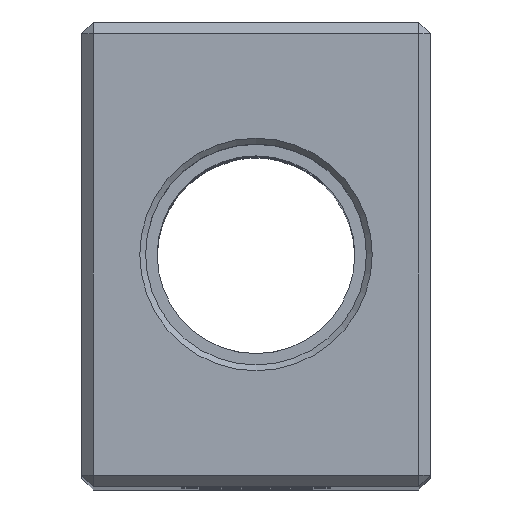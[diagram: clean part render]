
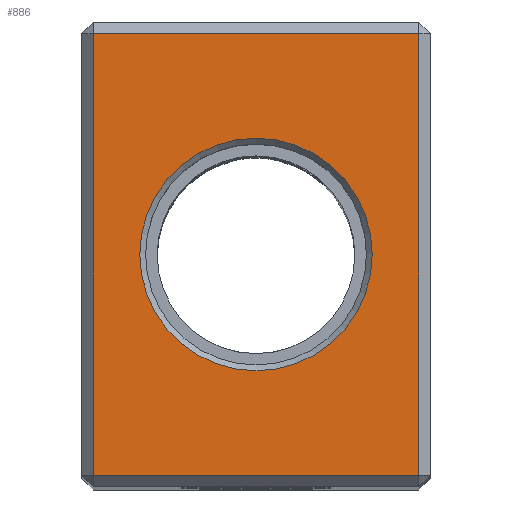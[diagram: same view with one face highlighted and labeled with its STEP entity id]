
A CAD part, top view. The second image highlights one B-rep face of the part: STEP entity #886.
In plain terms, the highlighted planar face has unit normal (0, 0, 1).
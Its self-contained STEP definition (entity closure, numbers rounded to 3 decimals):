
#29=PLANE('',#994);
#69=FACE_BOUND('',#167,.T.);
#99=FACE_OUTER_BOUND('',#166,.T.);
#166=EDGE_LOOP('',(#740,#741,#742,#743));
#167=EDGE_LOOP('',(#744));
#248=LINE('',#1726,#323);
#249=LINE('',#1728,#324);
#250=LINE('',#1730,#325);
#251=LINE('',#1731,#326);
#323=VECTOR('',#1181,10.);
#324=VECTOR('',#1182,10.);
#325=VECTOR('',#1183,10.);
#326=VECTOR('',#1184,10.);
#392=CIRCLE('',#991,10.);
#454=VERTEX_POINT('',#1716);
#457=VERTEX_POINT('',#1724);
#458=VERTEX_POINT('',#1725);
#459=VERTEX_POINT('',#1727);
#460=VERTEX_POINT('',#1729);
#551=EDGE_CURVE('',#454,#454,#392,.T.);
#555=EDGE_CURVE('',#457,#458,#248,.T.);
#556=EDGE_CURVE('',#459,#457,#249,.T.);
#557=EDGE_CURVE('',#460,#459,#250,.T.);
#558=EDGE_CURVE('',#458,#460,#251,.T.);
#740=ORIENTED_EDGE('',*,*,#555,.F.);
#741=ORIENTED_EDGE('',*,*,#556,.F.);
#742=ORIENTED_EDGE('',*,*,#557,.F.);
#743=ORIENTED_EDGE('',*,*,#558,.F.);
#744=ORIENTED_EDGE('',*,*,#551,.F.);
#886=ADVANCED_FACE('',(#99,#69),#29,.T.);
#991=AXIS2_PLACEMENT_3D('',#1717,#1172,#1173);
#994=AXIS2_PLACEMENT_3D('',#1723,#1179,#1180);
#1172=DIRECTION('center_axis',(0.,0.,1.));
#1173=DIRECTION('ref_axis',(-1.,0.,0.));
#1179=DIRECTION('center_axis',(0.,0.,1.));
#1180=DIRECTION('ref_axis',(1.,0.,0.));
#1181=DIRECTION('',(0.,1.,0.));
#1182=DIRECTION('',(-1.,0.,0.));
#1183=DIRECTION('',(0.,-1.,0.));
#1184=DIRECTION('',(1.,0.,0.));
#1716=CARTESIAN_POINT('',(10.,0.,75.5));
#1717=CARTESIAN_POINT('Origin',(0.,0.,75.5));
#1723=CARTESIAN_POINT('Origin',(0.,0.,75.5));
#1724=CARTESIAN_POINT('',(-14.,-19.,75.5));
#1725=CARTESIAN_POINT('',(-14.,19.,75.5));
#1726=CARTESIAN_POINT('',(-14.,10.,75.5));
#1727=CARTESIAN_POINT('',(14.,-19.,75.5));
#1728=CARTESIAN_POINT('',(-7.5,-19.,75.5));
#1729=CARTESIAN_POINT('',(14.,19.,75.5));
#1730=CARTESIAN_POINT('',(14.,-10.,75.5));
#1731=CARTESIAN_POINT('',(7.5,19.,75.5));
